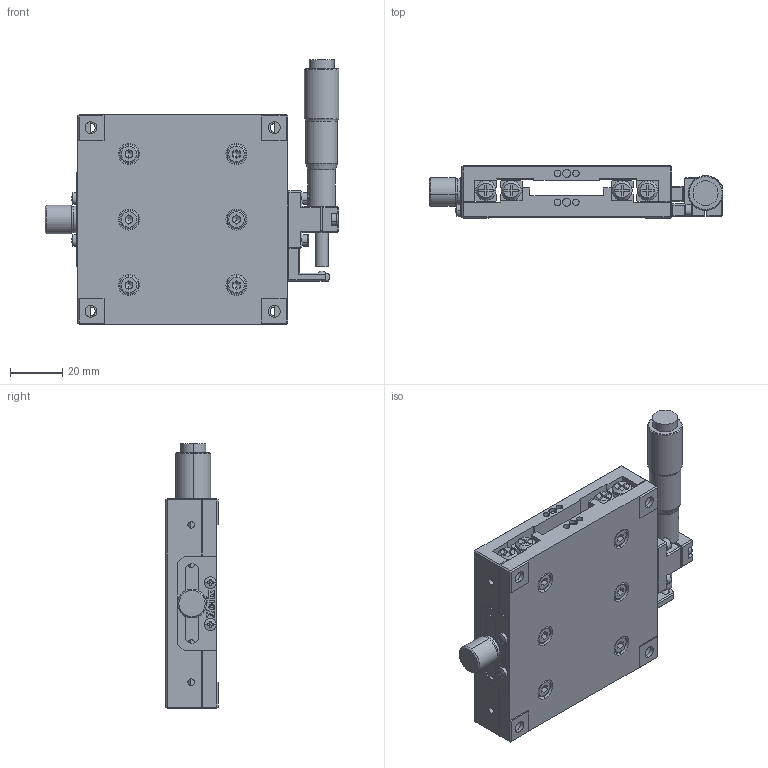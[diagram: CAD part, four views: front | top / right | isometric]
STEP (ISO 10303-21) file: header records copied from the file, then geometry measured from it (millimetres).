
FILE_DESCRIPTION (( 'STEP AP203' ), '1' );
FILE_NAME ('AK25A-8020SR.step', '2019-05-08T06:41:08', ( '' ), ( '' ), 'SwSTEP 2.0', 'SolidWorks 2017', '' );
FILE_SCHEMA (( 'CONFIG_CONTROL_DESIGN' ));
Length unit declared in the file: millimetre
Products named in the file (1): AK25A-8020SR
Bounding box: 112.11 x 20 x 101 mm (x, y, z)
Surface area: 46915.2 mm2 (no closed solid volume)
Topology: 0 solids, 38 shells, 793 faces, 2593 edges, 1748 vertices
Faces by surface type: plane 513, cylinder 180, cone 58, torus 36, sphere 6
Entity records: 28129 total; most frequent: CARTESIAN_POINT 5311, DIRECTION 4807, ORIENTED_EDGE 4288, EDGE_CURVE 2554, LINE 1773, VECTOR 1773, VERTEX_POINT 1745, AXIS2_PLACEMENT_3D 1517
